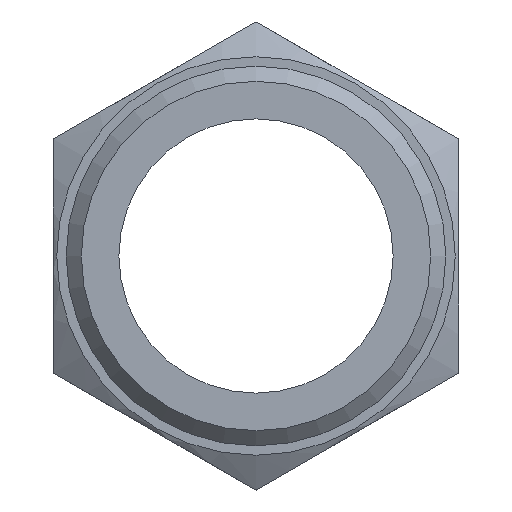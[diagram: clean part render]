
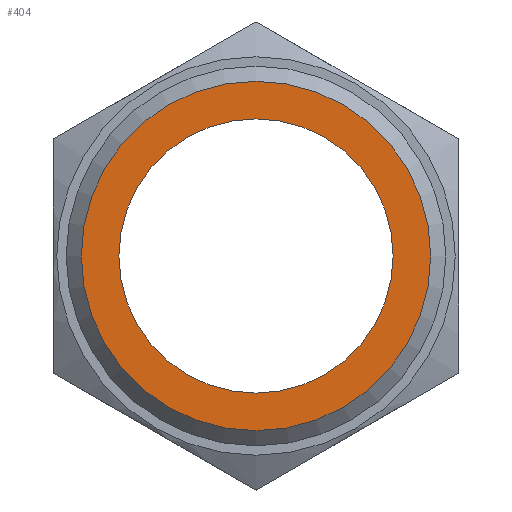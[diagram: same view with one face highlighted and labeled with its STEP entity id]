
A CAD part, front view. The second image highlights one B-rep face of the part: STEP entity #404.
In plain terms, the highlighted planar face has unit normal (0, -1, 0).
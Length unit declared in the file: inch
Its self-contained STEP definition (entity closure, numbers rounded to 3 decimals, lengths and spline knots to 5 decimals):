
#16=FACE_BOUND('',#102,.T.);
#48=CIRCLE('',#460,0.377);
#52=CIRCLE('',#466,0.296);
#53=CIRCLE('',#467,0.296);
#77=FACE_OUTER_BOUND('',#101,.T.);
#101=EDGE_LOOP('',(#344));
#102=EDGE_LOOP('',(#345,#346));
#193=VERTEX_POINT('',#719);
#197=VERTEX_POINT('',#731);
#198=VERTEX_POINT('',#732);
#247=EDGE_CURVE('',#193,#193,#48,.T.);
#253=EDGE_CURVE('',#197,#198,#52,.T.);
#254=EDGE_CURVE('',#198,#197,#53,.T.);
#344=ORIENTED_EDGE('',*,*,#247,.F.);
#345=ORIENTED_EDGE('',*,*,#253,.F.);
#346=ORIENTED_EDGE('',*,*,#254,.F.);
#384=PLANE('',#465);
#404=ADVANCED_FACE('',(#77,#16),#384,.T.);
#460=AXIS2_PLACEMENT_3D('',#720,#564,#565);
#465=AXIS2_PLACEMENT_3D('',#730,#576,#577);
#466=AXIS2_PLACEMENT_3D('',#733,#578,#579);
#467=AXIS2_PLACEMENT_3D('',#734,#580,#581);
#564=DIRECTION('center_axis',(0.,1.,0.));
#565=DIRECTION('ref_axis',(0.,0.,1.));
#576=DIRECTION('center_axis',(0.,-1.,0.));
#577=DIRECTION('ref_axis',(0.,0.,-1.));
#578=DIRECTION('center_axis',(0.,-1.,0.));
#579=DIRECTION('ref_axis',(1.,0.,0.));
#580=DIRECTION('center_axis',(0.,-1.,0.));
#581=DIRECTION('ref_axis',(1.,0.,0.));
#719=CARTESIAN_POINT('',(0.,0.,-0.377));
#720=CARTESIAN_POINT('Origin',(0.,0.,0.));
#730=CARTESIAN_POINT('Origin',(0.,0.,-0.296));
#731=CARTESIAN_POINT('',(0.,0.,-0.296));
#732=CARTESIAN_POINT('',(0.,0.,0.296));
#733=CARTESIAN_POINT('Origin',(0.,0.,0.));
#734=CARTESIAN_POINT('Origin',(0.,0.,0.));
